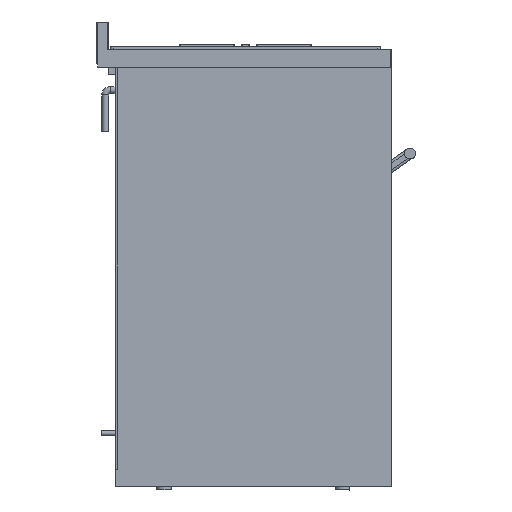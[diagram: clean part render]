
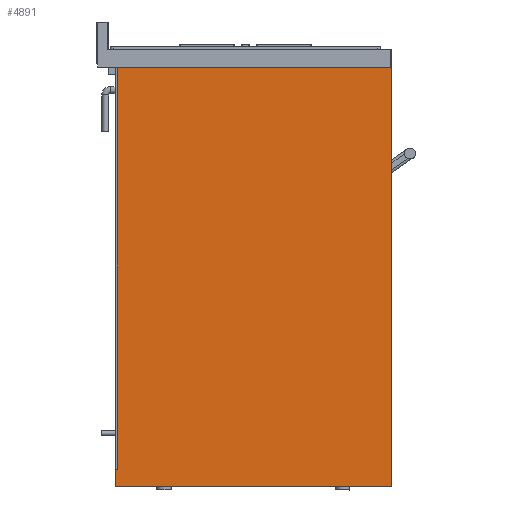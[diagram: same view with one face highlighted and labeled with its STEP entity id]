
A CAD part, left-side view. The second image highlights one B-rep face of the part: STEP entity #4891.
In plain terms, the highlighted planar face has unit normal (-1, 0, 0).
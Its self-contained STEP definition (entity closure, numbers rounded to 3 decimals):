
#1624=PLANE('',#30844);
#3016=FACE_OUTER_BOUND('',#12788,.T.);
#4891=ADVANCED_FACE('',(#3016),#1624,.F.);
#7772=LINE('',#49249,#10229);
#7775=LINE('',#49255,#10232);
#7778=LINE('',#49265,#10235);
#7781=LINE('',#49270,#10238);
#10229=VECTOR('',#38541,1.);
#10232=VECTOR('',#38546,1.);
#10235=VECTOR('',#38555,1.);
#10238=VECTOR('',#38560,1.);
#12788=EDGE_LOOP('',(#20276,#20277,#20278,#20279));
#20276=ORIENTED_EDGE('',*,*,#26898,.F.);
#20277=ORIENTED_EDGE('',*,*,#26909,.F.);
#20278=ORIENTED_EDGE('',*,*,#26906,.F.);
#20279=ORIENTED_EDGE('',*,*,#26901,.F.);
#23105=VERTEX_POINT('',#49248);
#23106=VERTEX_POINT('',#49250);
#23108=VERTEX_POINT('',#49256);
#23112=VERTEX_POINT('',#49266);
#26898=EDGE_CURVE('',#23105,#23106,#7772,.T.);
#26901=EDGE_CURVE('',#23106,#23108,#7775,.T.);
#26906=EDGE_CURVE('',#23108,#23112,#7778,.T.);
#26909=EDGE_CURVE('',#23112,#23105,#7781,.T.);
#30844=AXIS2_PLACEMENT_3D('',#49272,#38563,#38564);
#38541=DIRECTION('',(0.,-1.,0.));
#38546=DIRECTION('',(0.,0.,-1.));
#38555=DIRECTION('',(0.,1.,0.));
#38560=DIRECTION('',(0.,0.,1.));
#38563=DIRECTION('',(1.,0.,0.));
#38564=DIRECTION('',(0.,1.,0.));
#49248=CARTESIAN_POINT('',(-114.934,471.808,846.555));
#49249=CARTESIAN_POINT('',(-114.934,471.808,846.555));
#49250=CARTESIAN_POINT('',(-114.934,-93.192,846.555));
#49255=CARTESIAN_POINT('',(-114.934,-93.192,846.555));
#49256=CARTESIAN_POINT('',(-114.934,-93.192,-9.445));
#49265=CARTESIAN_POINT('',(-114.934,-93.192,-9.445));
#49266=CARTESIAN_POINT('',(-114.934,471.808,-9.445));
#49270=CARTESIAN_POINT('',(-114.934,471.808,-9.445));
#49272=CARTESIAN_POINT('',(-114.934,-93.192,846.555));
